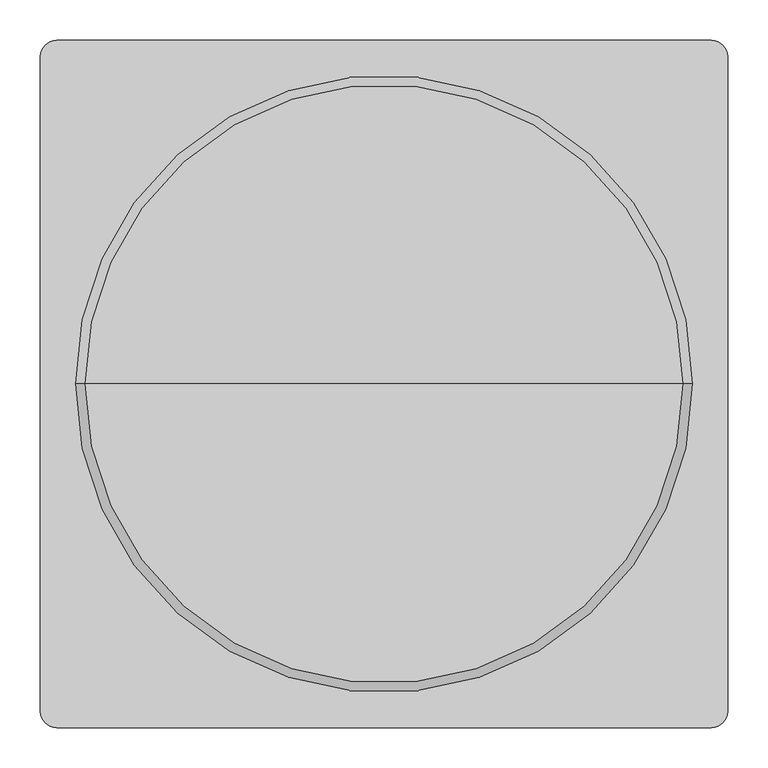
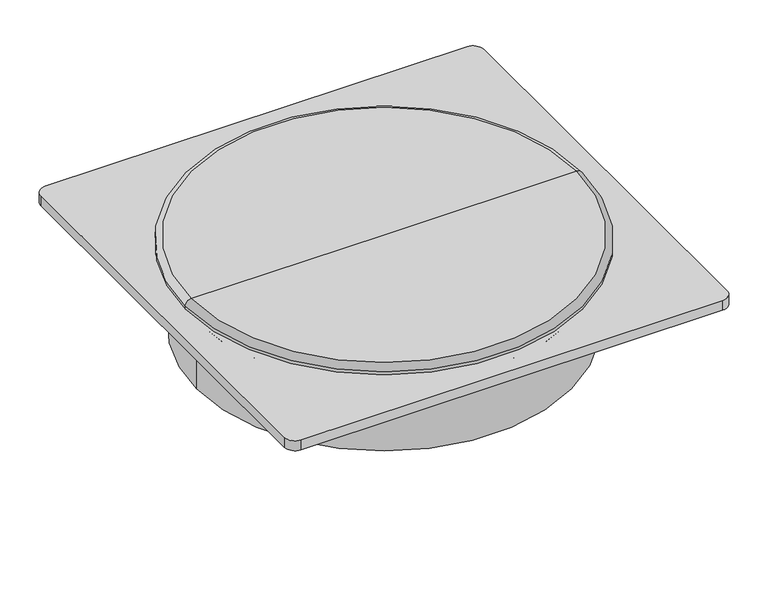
"""IFC4 building model written with IfcOpenShell, lengths in millimetres: unitary equipment geometry, VE-Wentylator-ParaForma-Harmann-WAF-Wywiewny : 710/6/16400S."""

from ifc_helpers import new_model, si_unit, point, frame, frame_2d, origin, origin_with_axes, origin_2d, place, context, project, spatial, polyline, circle_curve, ellipse_curve, trimmed, segment, composite_curve, outline, extrude, source, transform, mapped, element, save
from ifc_brep_helpers import plane_surface, cylinder_surface, revolved_surface, advanced_brep


def unitary_equipment_461d06a3(model_context):
    return source(origin(), model_context, "Body", "SolidModel", [
        advanced_brep(
        [(381.5, 0.0, 20.0), (-381.5, 0.0, 20.0), (0.0, 0.0, 20.0), (381.5, 0.0, 25.6666667), (-381.5, 0.0, 25.6666667), (370.1666667, 0.0, 37.0), (-370.1666667, 0.0, 37.0), (0.0, 0.0, 37.0)],
        [
            (0, 1, circle_curve(frame((0.0, 0.0, 20.0), z_axis=(0.0, 0.0, -1.0), x_axis=(-1.0000000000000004, 0.0, 0.0)), 381.5)),
            (1, 2),
            (2, 0),
            (1, 0, circle_curve(frame((0.0, 0.0, 20.0), z_axis=(0.0, 0.0, -1.0), x_axis=(-1.0000000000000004, 0.0, 0.0)), 381.5)),
            (3, 4, circle_curve(frame((0.0, 0.0, 25.6666667), z_axis=(0.0, 0.0, -1.0), x_axis=(-1.0000000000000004, 0.0, 0.0)), 381.5)),
            (4, 1),
            (0, 3),
            (4, 3, circle_curve(frame((0.0, 0.0, 25.6666667), z_axis=(0.0, 0.0, -1.0), x_axis=(-1.0000000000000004, 0.0, 0.0)), 381.5)),
            (5, 6, circle_curve(frame((0.0, 0.0, 37.0), z_axis=(0.0, 0.0, -1.0), x_axis=(-1.0000000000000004, 0.0, 0.0)), 370.1666667)),
            (6, 4, circle_curve(frame((-370.1666667, 0.0, 25.6666667), z_axis=(0.0, -1.0000000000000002, 0.0), x_axis=(0.0, 0.0, -1.0000000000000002)), 11.3333333)),
            (3, 5, circle_curve(frame((370.1666667, 0.0, 25.6666667), z_axis=(0.0, -1.0000000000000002, 0.0), x_axis=(0.0, 0.0, -1.0000000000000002)), 11.3333333)),
            (6, 5, circle_curve(frame((0.0, 0.0, 37.0), z_axis=(0.0, 0.0, -1.0), x_axis=(-1.0000000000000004, 0.0, 0.0)), 370.1666667)),
            (7, 6),
            (5, 7),
        ],
        [
            plane_surface(frame((0.0, 0.0, 20.0), z_axis=(0.0, 0.0, -1.0), x_axis=(-1.0, 0.0, 0.0))),
            cylinder_surface(frame((0.0, 0.0, 37.0), z_axis=(0.0, 0.0, 1.0000000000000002), x_axis=(-1.0000000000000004, 0.0, 0.0)), 381.5),
            revolved_surface(trimmed(ellipse_curve(frame((-370.1666667, 0.0, 25.6666667), z_axis=(0.0, 1.0000000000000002, 0.0), x_axis=(0.0, 0.0, -1.0000000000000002)), 11.3333333, 11.3333333), [point((-381.5, 0.0, 25.6666667))], [point((-370.1666667, 0.0, 37.0))], True, "CARTESIAN"), (0.0, 0.0, 37.0), (0.0, 0.0, 1.0000000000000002)),
            plane_surface(frame((0.0, 0.0, 37.0), z_axis=(0.0, 0.0, 1.0), x_axis=(-1.0, 0.0, 0.0))),
        ],
        [
            (0, [[1, 2, 3]]),
            (0, [[4, -3, -2]]),
            (1, [[5, 6, -1, 7]]),
            (1, [[8, -7, -4, -6]]),
            (2, [[9, 10, -5, 11]]),
            (2, [[12, -11, -8, -10]]),
            (3, [[13, -9, 14]]),
            (3, [[-14, -12, -13]]),
        ],
    ),
        extrude(outline(composite_curve([segment(trimmed(circle_curve(origin_2d(), 114.45), [point((114.45, 0.0))], [point((-114.45, 0.0))], False, "CARTESIAN"), True, "CONTINUOUS"), segment(trimmed(circle_curve(origin_2d(), 114.45), [point((-114.45, 0.0))], [point((114.45, 0.0))], False, "CARTESIAN"), True, "CONTINUOUS")], self_intersect=False)), frame((0.0, 0.0, -207.0), z_axis=(0.0, 0.0, 1.0), x_axis=(1.0, 0.0, 0.0)), (0.0, 0.0, 1.0), 57.0),
        advanced_brep(
        [(0.0, 0.0, 0.0), (-381.5, 0.0, 0.0), (381.5, 0.0, 0.0), (360.0, 0.0, -150.0), (-360.0, 0.0, -150.0), (0.0, 0.0, -150.0), (360.0, 0.0, -21.5), (-360.0, 0.0, -21.5)],
        [
            (0, 1),
            (1, 2, circle_curve(frame((0.0, 0.0, 0.0), z_axis=(0.0, 0.0, 1.0), x_axis=(-1.0000000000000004, 0.0, 0.0)), 381.5)),
            (2, 0),
            (2, 1, circle_curve(frame((0.0, 0.0, 0.0), z_axis=(0.0, 0.0, 1.0), x_axis=(-1.0000000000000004, 0.0, 0.0)), 381.5)),
            (3, 4, circle_curve(frame((0.0, 0.0, -150.0), z_axis=(0.0, 0.0, -1.0), x_axis=(-1.0000000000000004, 0.0, 0.0)), 360.0)),
            (4, 5),
            (5, 3),
            (4, 3, circle_curve(frame((0.0, 0.0, -150.0), z_axis=(0.0, 0.0, -1.0), x_axis=(-1.0000000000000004, 0.0, 0.0)), 360.0)),
            (6, 7, circle_curve(frame((0.0, 0.0, -21.5), z_axis=(0.0, 0.0, -1.0), x_axis=(-1.0000000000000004, 0.0, 0.0)), 360.0)),
            (7, 4),
            (3, 6),
            (7, 6, circle_curve(frame((0.0, 0.0, -21.5), z_axis=(0.0, 0.0, -1.0), x_axis=(-1.0000000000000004, 0.0, 0.0)), 360.0)),
            (1, 7, circle_curve(frame((-381.5, 0.0, -21.5), z_axis=(0.0, 1.0000000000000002, 0.0), x_axis=(0.0, 0.0, -1.0000000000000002)), 21.5)),
            (6, 2, circle_curve(frame((381.5, 0.0, -21.5), z_axis=(0.0, 1.0000000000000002, 0.0), x_axis=(0.0, 0.0, -1.0000000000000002)), 21.5)),
        ],
        [
            plane_surface(frame((0.0, 0.0, 0.0), z_axis=(0.0, 0.0, 1.0), x_axis=(-1.0, 0.0, 0.0))),
            plane_surface(frame((0.0, 0.0, -150.0), z_axis=(0.0, 0.0, -1.0), x_axis=(-1.0, 0.0, 0.0))),
            cylinder_surface(frame((0.0, 0.0, 0.0), z_axis=(0.0, 0.0, 1.0000000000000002), x_axis=(-1.0000000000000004, 0.0, 0.0)), 360.0),
            revolved_surface(trimmed(ellipse_curve(frame((-381.5, 0.0, -21.5), z_axis=(0.0, -1.0000000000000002, 0.0), x_axis=(0.0, 0.0, -1.0000000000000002)), 21.5, 21.5), [point((-360.0, 0.0, -21.5))], [point((-381.5, 0.0, 0.0))], True, "CARTESIAN"), (0.0, 0.0, 0.0), (0.0, 0.0, 1.0000000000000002)),
        ],
        [
            (0, [[1, 2, 3]]),
            (0, [[-3, 4, -1]]),
            (1, [[5, 6, 7]]),
            (1, [[8, -7, -6]]),
            (2, [[9, 10, -5, 11]]),
            (2, [[12, -11, -8, -10]]),
            (3, [[-2, 13, -9, 14]]),
            (3, [[-4, -14, -12, -13]]),
        ],
    ),
        extrude(outline(composite_curve([segment(polyline([(405.0, -425.0), (-405.0, -425.0)]), True, "CONTINUOUS"), segment(trimmed(circle_curve(frame_2d((-405.0, -405.0)), 20.0), [point((-405.0, -425.0))], [point((-425.0, -405.0))], False, "CARTESIAN"), True, "CONTINUOUS"), segment(polyline([(-425.0, -405.0), (-425.0, 405.0)]), True, "CONTINUOUS"), segment(trimmed(circle_curve(frame_2d((-405.0, 405.0)), 20.0), [point((-425.0, 405.0))], [point((-405.0, 425.0))], False, "CARTESIAN"), True, "CONTINUOUS"), segment(polyline([(-405.0, 425.0), (405.0, 425.0)]), True, "CONTINUOUS"), segment(trimmed(circle_curve(frame_2d((405.0, 405.0)), 20.0), [point((405.0, 425.0))], [point((425.0, 405.0))], False, "CARTESIAN"), True, "CONTINUOUS"), segment(polyline([(425.0, 405.0), (425.0, -405.0)]), True, "CONTINUOUS"), segment(trimmed(circle_curve(frame_2d((405.0, -405.0)), 20.0), [point((425.0, -405.0))], [point((405.0, -425.0))], False, "CARTESIAN"), True, "CONTINUOUS")], self_intersect=False)), origin_with_axes(), (0.0, 0.0, 1.0), 20.0),
    ])


if __name__ == "__main__":
    model = new_model("IFC4")
    model_context = context("Model", 3, world=origin())
    ifc_project = project(units=[si_unit("LENGTHUNIT", "METRE", prefix="MILLI")], contexts=[model_context])
    site = spatial("IfcSite", under=ifc_project)
    building = spatial("IfcBuilding", under=site)
    placement = place(None, origin())
    unitary_equipment_shape = unitary_equipment_461d06a3(model_context)
    element("IfcUnitaryEquipment", 1, ObjectType="VE-Wentylator-ParaForma-Harmann-WAF-Wywiewny : 710/6/16400S", at=placement, inside=building, context=model_context, shape_type="MappedRepresentation", body=[
        mapped(unitary_equipment_shape, transform((0.0, 0.0, 0.0), x_axis=(1.0, 0.0, 0.0), y_axis=(0.0, 1.0, 0.0), z_axis=(0.0, 0.0, 1.0))),
    ])
    save(model, "model.ifc")
